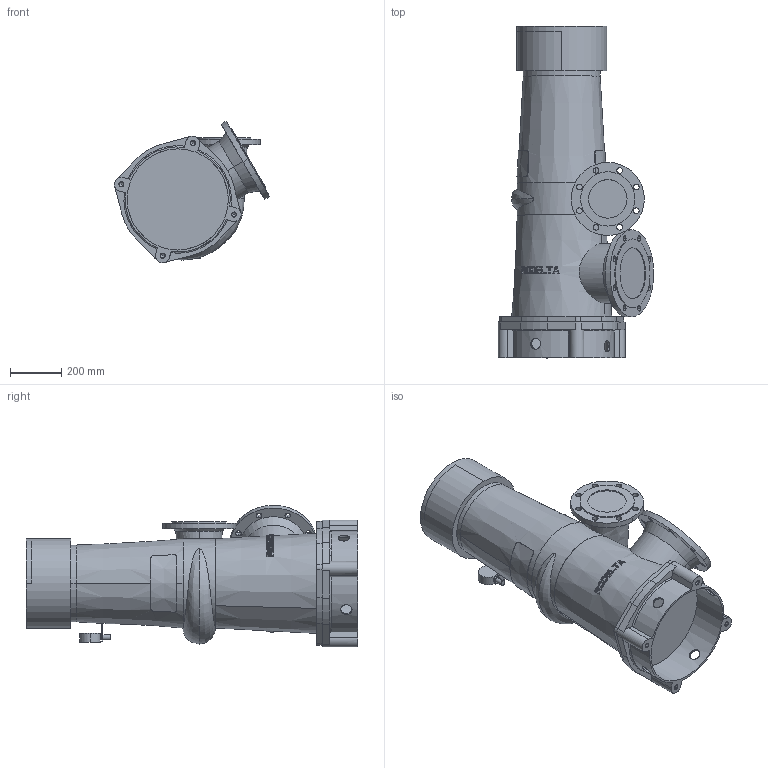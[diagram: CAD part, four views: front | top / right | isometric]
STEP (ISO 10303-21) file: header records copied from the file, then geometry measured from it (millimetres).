
FILE_DESCRIPTION((''),'2;1');
FILE_NAME('7310_ASM','2024-07-23T',('Lyritlocal'),(''),'PRO/ENGINEER BY PARAMETRIC TECHNOLOGY CORPORATION, 2016360','PRO/ENGINEER BY PARAMETRIC TECHNOLOGY CORPORATION, 2016360','');
FILE_SCHEMA(('CONFIG_CONTROL_DESIGN'));
Length unit declared in the file: millimetre
Products named in the file (3): 7310_VOET; 7310; 7310_ASM
Assembly tree (2 placements, depth 2):
  7310_ASM
    7310_VOET
    7310
Bounding box: 605.81 x 1295 x 552.37 mm (x, y, z)
Volume: 130921154 mm3; surface area: 2758235.8 mm2
Topology: 2 solids, 6 shells, 520 faces, 1400 edges, 927 vertices
Faces by surface type: plane 343, cylinder 129, cone 38, bspline 6, torus 4
Entity records: 18158 total; most frequent: CARTESIAN_POINT 5526, ORIENTED_EDGE 2768, DIRECTION 2357, EDGE_CURVE 1392, VERTEX_POINT 927, AXIS2_PLACEMENT_3D 912, EDGE_LOOP 611, VECTOR 533
